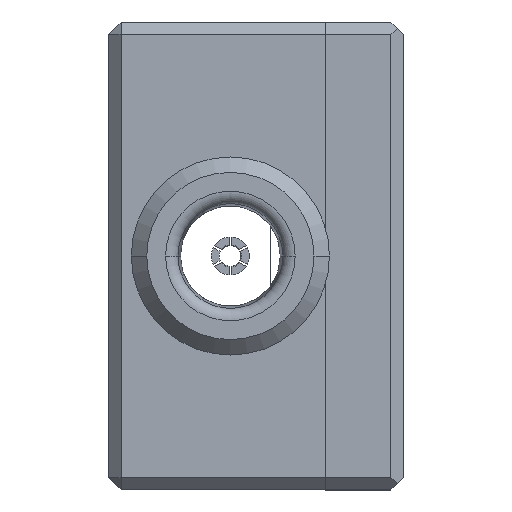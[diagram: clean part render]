
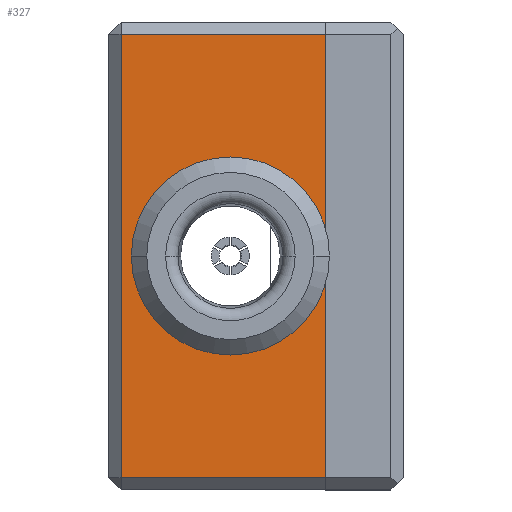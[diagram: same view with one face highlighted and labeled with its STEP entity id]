
A CAD part, left-side view. The second image highlights one B-rep face of the part: STEP entity #327.
In plain terms, the highlighted planar face has unit normal (-1, 0, 0).
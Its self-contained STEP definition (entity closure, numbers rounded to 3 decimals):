
#90 = DIRECTION ( 'NONE',  ( 0., 0., 1. ) ) ;
#327 = ADVANCED_FACE ( 'NONE', ( #16966, #16778 ), #11735, .F. ) ;
#455 = ORIENTED_EDGE ( 'NONE', *, *, #16982, .F. ) ;
#819 = VECTOR ( 'NONE', #17763, 1000. ) ;
#3197 = LINE ( 'NONE', #15392, #10273 ) ;
#3535 = AXIS2_PLACEMENT_3D ( 'NONE', #13704, #5389, #15071 ) ;
#3764 = ORIENTED_EDGE ( 'NONE', *, *, #16891, .T. ) ;
#4106 = LINE ( 'NONE', #5648, #14775 ) ;
#4994 = CIRCLE ( 'NONE', #9669, 6.375 ) ;
#5389 = DIRECTION ( 'NONE',  ( -1., 0., 0. ) ) ;
#5457 = LINE ( 'NONE', #6963, #819 ) ;
#5648 = CARTESIAN_POINT ( 'NONE',  ( -24.5, 0., 18.9 ) ) ;
#6041 = EDGE_LOOP ( 'NONE', ( #3764, #10321, #12695, #9893 ) ) ;
#6101 = ORIENTED_EDGE ( 'NONE', *, *, #16939, .F. ) ;
#6517 = CARTESIAN_POINT ( 'NONE',  ( -24.5, 16.5, 17.9 ) ) ;
#6706 = CARTESIAN_POINT ( 'NONE',  ( -24.5, 16.5, -18.9 ) ) ;
#6891 = DIRECTION ( 'NONE',  ( -1., 0., 0. ) ) ;
#6893 = CARTESIAN_POINT ( 'NONE',  ( -24.5, 0., 17.9 ) ) ;
#6963 = CARTESIAN_POINT ( 'NONE',  ( -24.5, 17.5, -17.9 ) ) ;
#7209 = DIRECTION ( 'NONE',  ( 0., 1., 0. ) ) ;
#8514 = VERTEX_POINT ( 'NONE', #6517 ) ;
#9247 = CIRCLE ( 'NONE', #3535, 6.375 ) ;
#9515 = VERTEX_POINT ( 'NONE', #14668 ) ;
#9664 = VECTOR ( 'NONE', #16267, 1000. ) ;
#9669 = AXIS2_PLACEMENT_3D ( 'NONE', #15127, #6891, #16446 ) ;
#9893 = ORIENTED_EDGE ( 'NONE', *, *, #17144, .T. ) ;
#10273 = VECTOR ( 'NONE', #7209, 1000. ) ;
#10321 = ORIENTED_EDGE ( 'NONE', *, *, #17047, .T. ) ;
#10687 = DIRECTION ( 'NONE',  ( 0., 0., -1. ) ) ;
#10996 = CARTESIAN_POINT ( 'NONE',  ( -24.5, 17.5, 18.9 ) ) ;
#11711 = VERTEX_POINT ( 'NONE', #6893 ) ;
#11735 = PLANE ( 'NONE',  #14035 ) ;
#12064 = DIRECTION ( 'NONE',  ( 1., 0., 0. ) ) ;
#12324 = CARTESIAN_POINT ( 'NONE',  ( -24.5, 1.295, 0. ) ) ;
#12695 = ORIENTED_EDGE ( 'NONE', *, *, #17110, .T. ) ;
#12700 = CARTESIAN_POINT ( 'NONE',  ( -24.5, 16.5, -17.9 ) ) ;
#13704 = CARTESIAN_POINT ( 'NONE',  ( -24.5, 7.67, 0. ) ) ;
#13774 = CARTESIAN_POINT ( 'NONE',  ( -24.5, 0., -17.9 ) ) ;
#14035 = AXIS2_PLACEMENT_3D ( 'NONE', #10996, #12064, #10687 ) ;
#14152 = VERTEX_POINT ( 'NONE', #13774 ) ;
#14224 = VERTEX_POINT ( 'NONE', #12700 ) ;
#14668 = CARTESIAN_POINT ( 'NONE',  ( -24.5, 14.045, 0. ) ) ;
#14775 = VECTOR ( 'NONE', #90, 1000. ) ;
#15071 = DIRECTION ( 'NONE',  ( 0., 1., 0. ) ) ;
#15127 = CARTESIAN_POINT ( 'NONE',  ( -24.5, 7.67, 0. ) ) ;
#15392 = CARTESIAN_POINT ( 'NONE',  ( -24.5, 17.5, 17.9 ) ) ;
#16267 = DIRECTION ( 'NONE',  ( 0., 0., -1. ) ) ;
#16446 = DIRECTION ( 'NONE',  ( 0., 1., 0. ) ) ;
#16778 = FACE_OUTER_BOUND ( 'NONE', #6041, .T. ) ;
#16824 = LINE ( 'NONE', #6706, #9664 ) ;
#16891 = EDGE_CURVE ( 'NONE', #8514, #14224, #16824, .T. ) ;
#16939 = EDGE_CURVE ( 'NONE', #9515, #17678, #9247, .T. ) ;
#16966 = FACE_BOUND ( 'NONE', #17264, .T. ) ;
#16982 = EDGE_CURVE ( 'NONE', #17678, #9515, #4994, .T. ) ;
#17047 = EDGE_CURVE ( 'NONE', #14224, #14152, #5457, .T. ) ;
#17110 = EDGE_CURVE ( 'NONE', #14152, #11711, #4106, .T. ) ;
#17144 = EDGE_CURVE ( 'NONE', #11711, #8514, #3197, .T. ) ;
#17264 = EDGE_LOOP ( 'NONE', ( #6101, #455 ) ) ;
#17678 = VERTEX_POINT ( 'NONE', #12324 ) ;
#17763 = DIRECTION ( 'NONE',  ( 0., -1., 0. ) ) ;
